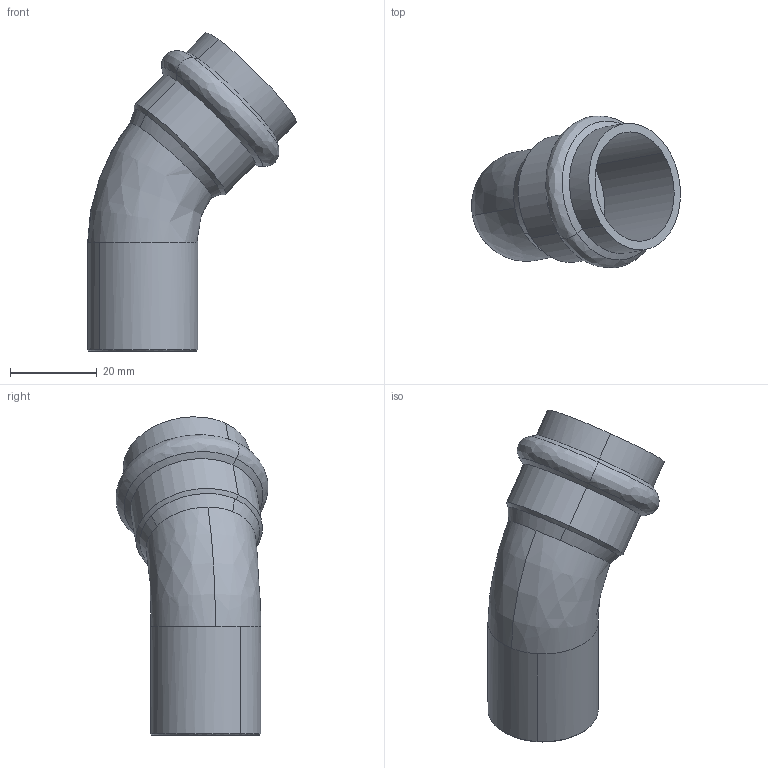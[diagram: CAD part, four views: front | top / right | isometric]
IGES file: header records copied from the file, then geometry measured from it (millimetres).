
Start section: 3D InterOp IGES (Version 25 0 1), Spatial Corp. Copyright (c) 1999-2007.
Global section: file name: pim0004552.igs; native system: Spatial Corp.; preprocessor: 3D InterOp ACIS/IGES; author: Cad-Pim; organization: TransMagic, Inc.; date: 20150430.172457; units: millimetre
Bounding box: 48.05 x 34.96 x 73.2 mm (x, y, z)
Volume: 30513.9 mm3; surface area: 9459.2 mm2
Topology: 1 solids, 1 shells, 27 faces, 71 edges, 47 vertices
Faces by surface type: bspline 11, cone 10, cylinder 6
